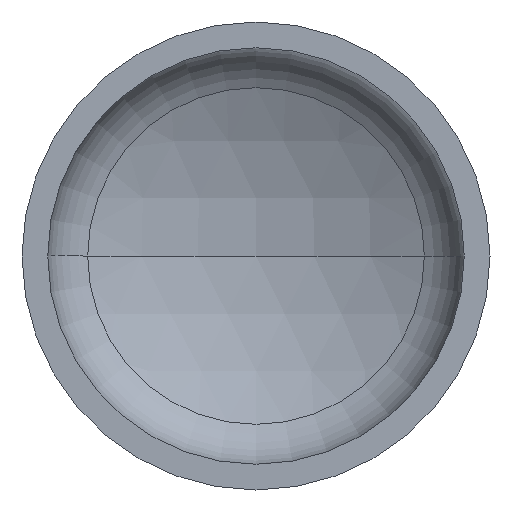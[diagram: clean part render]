
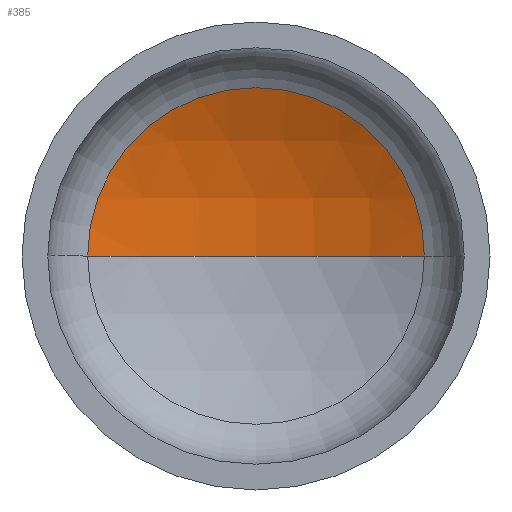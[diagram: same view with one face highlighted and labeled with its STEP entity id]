
A CAD part, front view. The second image highlights one B-rep face of the part: STEP entity #385.
In plain terms, the highlighted spherical face has radius 1600 mm.
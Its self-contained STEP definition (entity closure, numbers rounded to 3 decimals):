
#1 = AXIS2_PLACEMENT_3D ( 'NONE', #47, #86, #215 ) ;
#2 = AXIS2_PLACEMENT_3D ( 'NONE', #405, #257, #358 ) ;
#11 = AXIS2_PLACEMENT_3D ( 'NONE', #88, #177, #305 ) ;
#24 = EDGE_LOOP ( 'NONE', ( #70, #37, #206 ) ) ;
#29 = CARTESIAN_POINT ( 'NONE',  ( -719.38, 351.899, 0. ) ) ;
#37 = ORIENTED_EDGE ( 'NONE', *, *, #387, .T. ) ;
#46 = VERTEX_POINT ( 'NONE', #272 ) ;
#47 = CARTESIAN_POINT ( 'NONE',  ( 0., -1077.259, 0. ) ) ;
#55 = CIRCLE ( 'NONE', #11, 1600. ) ;
#65 = CARTESIAN_POINT ( 'NONE',  ( 0., 351.899, 0. ) ) ;
#70 = ORIENTED_EDGE ( 'NONE', *, *, #366, .F. ) ;
#84 = VERTEX_POINT ( 'NONE', #278 ) ;
#86 = DIRECTION ( 'NONE',  ( 0., 0., -1. ) ) ;
#88 = CARTESIAN_POINT ( 'NONE',  ( 0., -1077.259, 0. ) ) ;
#154 = CIRCLE ( 'NONE', #2, 1600. ) ;
#177 = DIRECTION ( 'NONE',  ( 0., 0., 1. ) ) ;
#206 = ORIENTED_EDGE ( 'NONE', *, *, #389, .T. ) ;
#215 = DIRECTION ( 'NONE',  ( -1., 0., 0. ) ) ;
#235 = DIRECTION ( 'NONE',  ( 0., -1., 0. ) ) ;
#244 = SPHERICAL_SURFACE ( 'NONE', #1, 1600. ) ;
#248 = FACE_OUTER_BOUND ( 'NONE', #24, .T. ) ;
#257 = DIRECTION ( 'NONE',  ( 0., 0., -1. ) ) ;
#272 = CARTESIAN_POINT ( 'NONE',  ( 719.38, 351.899, 0. ) ) ;
#278 = CARTESIAN_POINT ( 'NONE',  ( 0., 522.741, 0. ) ) ;
#295 = AXIS2_PLACEMENT_3D ( 'NONE', #65, #235, #404 ) ;
#302 = CIRCLE ( 'NONE', #295, 719.38 ) ;
#305 = DIRECTION ( 'NONE',  ( 1., 0., 0. ) ) ;
#327 = VERTEX_POINT ( 'NONE', #29 ) ;
#358 = DIRECTION ( 'NONE',  ( -1., 0., 0. ) ) ;
#366 = EDGE_CURVE ( 'NONE', #84, #327, #55, .T. ) ;
#385 = ADVANCED_FACE ( 'NONE', ( #248 ), #244, .F. ) ;
#387 = EDGE_CURVE ( 'NONE', #84, #46, #154, .T. ) ;
#389 = EDGE_CURVE ( 'NONE', #46, #327, #302, .T. ) ;
#404 = DIRECTION ( 'NONE',  ( 1., 0., 0. ) ) ;
#405 = CARTESIAN_POINT ( 'NONE',  ( 0., -1077.259, 0. ) ) ;
